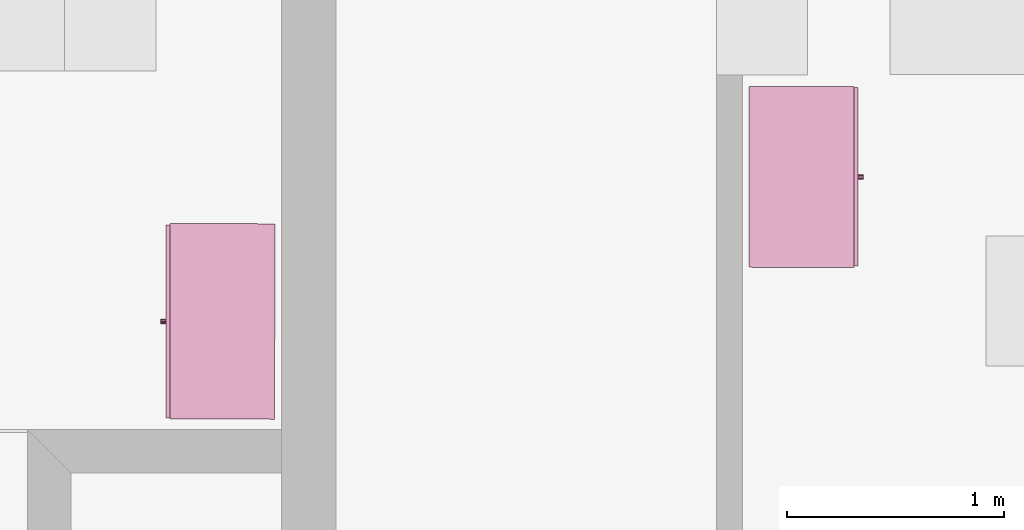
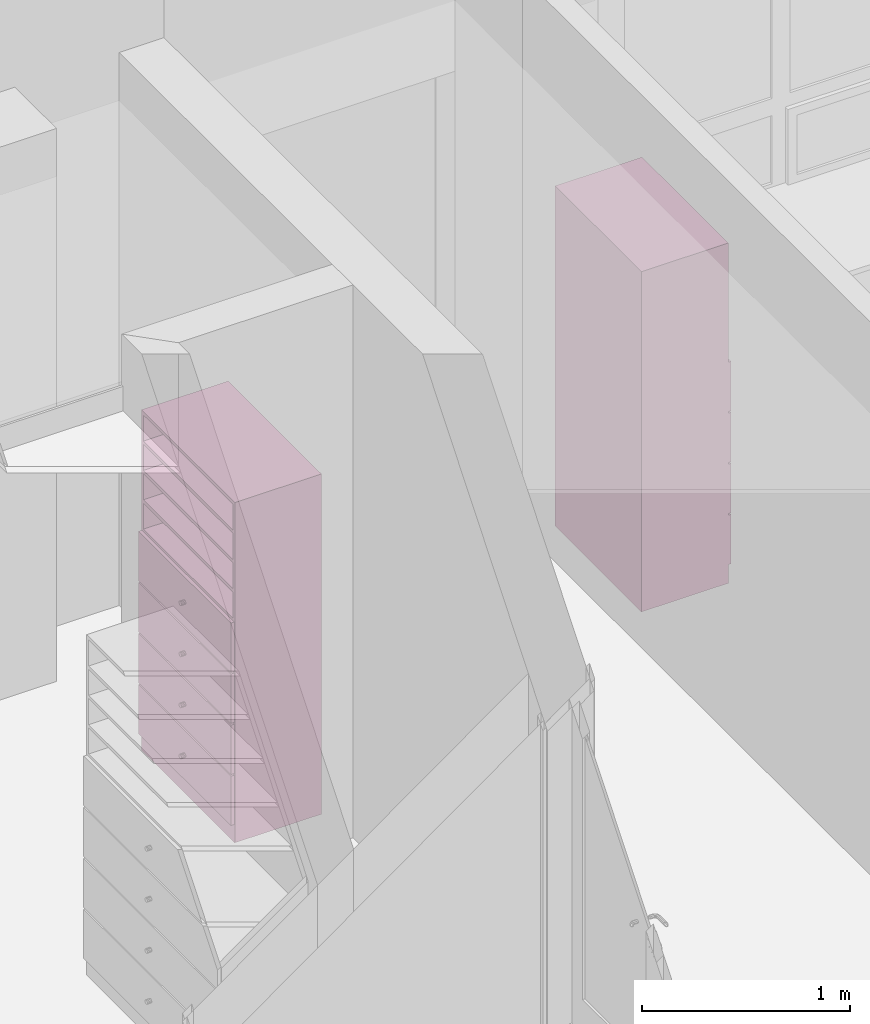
# One storey, part 132 of 194: 2 furnishings.
"""IFC2X3 building model written with IfcOpenShell, lengths in millimetres."""

import ifcopenshell
import ifcopenshell.guid

model = None  # the IFC model being written
_history = None  # IfcOwnerHistory: only IFC2X3 demands one
_inside = {}  # id of a spatial element -> (the spatial element, [elements in it])
_under = {}  # id of a project, library or spatial element -> (it, [spatial elements below it])
_declared = {}  # id of a project -> (the project, [libraries it declares])
_typed = {}  # id of a type object -> (the type object, [elements of that type])
_made_of = {}  # id of a material, layer set ... -> (it, [elements and type objects made of it])


def new_model(schema):
    """Start an empty IFC model of exactly this schema.

    Asked for "IFC4X3", IfcOpenShell would pick the latest addendum, in which some entities
    have other attributes; the version numbers below select the first issue.
    IFC2X3 requires an IfcOwnerHistory on every rooted entity: one is made here for all.
    """
    global model, _history
    if schema == "IFC4X3":
        model = ifcopenshell.file(schema_version=(4, 3, 0, 0))
    else:
        model = ifcopenshell.file(schema=schema)
    _inside.clear()
    _under.clear()
    _declared.clear()
    _typed.clear()
    _made_of.clear()
    _history = None
    if model.schema == "IFC2X3":
        org = make("IfcOrganization", Name="unknown")
        user = make(
            "IfcPersonAndOrganization",
            ThePerson=make("IfcPerson", FamilyName="unknown"),
            TheOrganization=org,
        )
        app = make(
            "IfcApplication",
            ApplicationDeveloper=org,
            Version="unknown",
            ApplicationFullName="unknown",
            ApplicationIdentifier="unknown",
        )
        _history = make(
            "IfcOwnerHistory",
            OwningUser=user,
            OwningApplication=app,
            ChangeAction="ADDED",
            CreationDate=0,
        )
    return model


def make(cls, **values):
    """One entity of the class cls with the attributes given. An attribute that is None is left unset."""
    return model.create_entity(
        cls, **{name: value for name, value in values.items() if value is not None}
    )


def entity(cls, *values):
    """Any entity or typed value of the class cls, its attributes in the order of the schema. None: left unset."""
    e = model.create_entity(cls)
    for i, value in enumerate(values):
        if value is not None:
            e[i] = value
    return e


def rooted(cls, **values):
    """An entity with a GlobalId (a new one), such as an element, a storey or a relation."""
    return make(cls, GlobalId=ifcopenshell.guid.new(), OwnerHistory=_history, **values)


def si_unit(unit_type, name, prefix=None):
    """IfcSIUnit, for example si_unit("LENGTHUNIT", "METRE", prefix="MILLI")."""
    return make("IfcSIUnit", UnitType=unit_type, Prefix=prefix, Name=name)


def converted_unit(unit_type, name, factor, base, dimensions=None, offset=None):
    """IfcConversionBasedUnit, such as the inch: factor (a typed value) times the base unit."""
    return make(
        "IfcConversionBasedUnit"
        if offset is None
        else "IfcConversionBasedUnitWithOffset",
        ConversionOffset=offset,
        Dimensions=None
        if dimensions is None
        else entity("IfcDimensionalExponents", *dimensions),
        UnitType=unit_type,
        Name=name,
        ConversionFactor=make(
            "IfcMeasureWithUnit", ValueComponent=factor, UnitComponent=base
        ),
    )


def derived_unit(unit_type, elements):
    """IfcDerivedUnit: a product of units, each with its exponent."""
    return make(
        "IfcDerivedUnit",
        Elements=[
            make("IfcDerivedUnitElement", Unit=unit, Exponent=power)
            for unit, power in elements
        ],
        UnitType=unit_type,
    )


def money_unit(currency):
    """IfcMonetaryUnit."""
    return make("IfcMonetaryUnit", Currency=currency)


def assignment(units):
    """IfcUnitAssignment: the units of a project."""
    return None if units is None else make("IfcUnitAssignment", Units=units)


def point(xyz):
    """IfcCartesianPoint."""
    return None if xyz is None else make("IfcCartesianPoint", Coordinates=xyz)


def direction(xyz):
    """IfcDirection."""
    return None if xyz is None else make("IfcDirection", DirectionRatios=xyz)


def frame(location, z_axis=None, x_axis=None):
    """IfcAxis2Placement3D, a coordinate frame: its origin and axes. An axis left out is left unset."""
    return make(
        "IfcAxis2Placement3D",
        Location=point(location),
        Axis=direction(z_axis),
        RefDirection=direction(x_axis),
    )


def origin_with_axes():
    """The frame at (0, 0, 0) with the z axis (0, 0, 1) and the x axis (1, 0, 0) written out."""
    return frame((0.0, 0.0, 0.0), z_axis=(0.0, 0.0, 1.0), x_axis=(1.0, 0.0, 0.0))


def place(relative_to, where):
    """IfcLocalPlacement: puts the frame where relative to a parent placement (None: the world)."""
    return make(
        "IfcLocalPlacement", PlacementRelTo=relative_to, RelativePlacement=where
    )


def context(
    kind, dimensions, precision=None, world=None, true_north=None, identifier=None
):
    """IfcGeometricRepresentationContext, for example the 3D "Model" context."""
    return make(
        "IfcGeometricRepresentationContext",
        ContextIdentifier=identifier,
        ContextType=kind,
        CoordinateSpaceDimension=dimensions,
        Precision=precision,
        WorldCoordinateSystem=world,
        TrueNorth=true_north,
    )


def subcontext(parent, identifier, kind, view, scale=None):
    """IfcGeometricRepresentationSubContext, for example "Body" below "Model"."""
    return make(
        "IfcGeometricRepresentationSubContext",
        ContextIdentifier=identifier,
        ContextType=kind,
        ParentContext=parent,
        TargetScale=scale,
        TargetView=view,
    )


def project(units=None, contexts=None):
    """IfcProject with its units and contexts."""
    return rooted(
        "IfcProject",
        Name="project",
        RepresentationContexts=contexts,
        UnitsInContext=assignment(units),
    )


def spatial(cls, under=None, at=None, **own):
    """A site, building, storey or space (cls), placed at a placement, below another one or the project."""
    s = rooted(cls, ObjectPlacement=at, **own)
    if under is not None:
        _under.setdefault(under.id(), (under, []))[1].append(s)
    return s


def faces_of(points, faces, orient=None, outer=None):
    """IfcFace entities. A face is a list of loops; a loop is a list of indices into points, from 0.

    orient and outer hold one flag for each loop. By default every Orientation is true, the
    first loop of a face is its IfcFaceOuterBound and the others are IfcFaceBound.
    """
    made = []
    for i, loops in enumerate(faces):
        bounds = []
        for j, loop in enumerate(loops):
            is_outer = j == 0 if outer is None else outer[i][j]
            bounds.append(
                make(
                    "IfcFaceOuterBound" if is_outer else "IfcFaceBound",
                    Bound=make("IfcPolyLoop", Polygon=[points[k] for k in loop]),
                    Orientation=True if orient is None else orient[i][j],
                )
            )
        made.append(make("IfcFace", Bounds=bounds))
    return made


def faceted_brep(points, faces, orient=None, outer=None, voids=None):
    """IfcFacetedBrep: a solid bounded by flat faces; with voids (closed shells), ...WithVoids."""
    shared = [point(p) for p in points]
    hull = make("IfcClosedShell", CfsFaces=faces_of(shared, faces, orient, outer))
    if voids is None:
        return make("IfcFacetedBrep", Outer=hull)
    return make(
        "IfcFacetedBrepWithVoids",
        Outer=hull,
        Voids=[
            make(cls, CfsFaces=faces_of(shared, fs, o, b)) for cls, fs, o, b in voids
        ],
    )


def shape(context_of_items, identifier, shape_type, items):
    """IfcShapeRepresentation: the items that make up one representation, for example the "Body"."""
    return make(
        "IfcShapeRepresentation",
        ContextOfItems=context_of_items,
        RepresentationIdentifier=identifier,
        RepresentationType=shape_type,
        Items=items,
    )


def source(mapping_origin, context_of_items, identifier, shape_type, items):
    """IfcRepresentationMap: a shape defined once, which mapped items show again and again."""
    return make(
        "IfcRepresentationMap",
        MappingOrigin=mapping_origin,
        MappedRepresentation=shape(context_of_items, identifier, shape_type, items),
    )


def transform(
    local_origin,
    x_axis=None,
    y_axis=None,
    z_axis=None,
    scale=None,
    scale2=None,
    scale3=None,
    uniform=True,
):
    """IfcCartesianTransformationOperator3D, or its non-uniform kind. x_axis, y_axis, z_axis: its Axis1, 2, 3."""
    if uniform:
        return make(
            "IfcCartesianTransformationOperator3D",
            Axis1=direction(x_axis),
            Axis2=direction(y_axis),
            LocalOrigin=point(local_origin),
            Scale=scale,
            Axis3=direction(z_axis),
        )
    return make(
        "IfcCartesianTransformationOperator3DnonUniform",
        Axis1=direction(x_axis),
        Axis2=direction(y_axis),
        LocalOrigin=point(local_origin),
        Scale=scale,
        Axis3=direction(z_axis),
        Scale2=scale2,
        Scale3=scale3,
    )


def mapped(mapping_source, mapping_target):
    """IfcMappedItem: shows the shape of a source again, moved by a transform."""
    return make(
        "IfcMappedItem", MappingSource=mapping_source, MappingTarget=mapping_target
    )


def made_of(thing, what):
    """Note that an element or type object is made of a material, layer set ...; save() writes the relation."""
    if what is not None:
        _made_of.setdefault(what.id(), (what, []))[1].append(thing)
    return thing


def type_object(cls, material=None, **own):
    """A type object (cls), such as IfcWallType, which elements share."""
    return made_of(rooted(cls, **own), material)


def element(
    cls,
    number,
    at=None,
    inside=None,
    cuts=None,
    type_object=None,
    material=None,
    context=None,
    identifier="Body",
    shape_type=None,
    held_by="IfcProductDefinitionShape",
    body=None,
    shapes=None,
    **own,
):
    """One element of the class cls, such as IfcWall. Its Tag is "e" and its number.

    at: its placement. inside: the storey or other place that contains it. cuts: it is an
    opening in that element (IfcRelVoidsElement). A single representation is given by context,
    identifier, shape_type and body (its items); several are given by shapes. held_by: the class
    of the entity that holds the representations. save() writes the other relations.
    """
    e = rooted(cls, Tag="e%d" % number, ObjectPlacement=at, **own)
    if body is not None:
        shapes = [shape(context, identifier, shape_type, body)]
    if shapes is not None:
        e.Representation = make(held_by, Representations=shapes)
    if inside is not None:
        _inside.setdefault(inside.id(), (inside, []))[1].append(e)
    if cuts is not None:
        rooted(
            "IfcRelVoidsElement", RelatingBuildingElement=cuts, RelatedOpeningElement=e
        )
    if type_object is not None:
        _typed.setdefault(type_object.id(), (type_object, []))[1].append(e)
    return made_of(e, material)


def aggregate(whole, parts):
    """IfcRelAggregates: a whole, such as a stair, and the parts it consists of."""
    return rooted("IfcRelAggregates", RelatingObject=whole, RelatedObjects=parts)


def save(model, path):
    """Write the relations noted so far, then the file.

    IfcRelAggregates (storeys below a building ...), IfcRelContainedInSpatialStructure (elements
    in a storey), IfcRelDefinesByType, IfcRelAssociatesMaterial and IfcRelDeclares: one each for
    every whole, place, type object, material and project.
    """
    for whole, parts in _under.values():
        aggregate(whole, parts)
    for where, things in _inside.values():
        rooted(
            "IfcRelContainedInSpatialStructure",
            RelatedElements=things,
            RelatingStructure=where,
        )
    for kind, things in _typed.values():
        rooted("IfcRelDefinesByType", RelatedObjects=things, RelatingType=kind)
    for what, things in _made_of.values():
        rooted("IfcRelAssociatesMaterial", RelatedObjects=things, RelatingMaterial=what)
    for by, libraries in _declared.values():
        rooted("IfcRelDeclares", RelatingContext=by, RelatedDefinitions=libraries)
    model.write(path)


model = new_model("IFC2X3")

# Units and contexts
model_context = context("Model", 3, precision=1e-05, world=origin_with_axes(), true_north=direction((0.0, 1.0)))
body_context = subcontext(model_context, "Body", "Model", "MODEL_VIEW")
ifc_project = project(units=[si_unit("LENGTHUNIT", "METRE", prefix="MILLI"), si_unit("AREAUNIT", "SQUARE_METRE"), si_unit("VOLUMEUNIT", "CUBIC_METRE"), converted_unit("PLANEANGLEUNIT", "DEGREE", entity("IfcPlaneAngleMeasure", 0.0174532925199), si_unit("PLANEANGLEUNIT", "RADIAN"), dimensions=[0, 0, 0, 0, 0, 0, 0]), si_unit("SOLIDANGLEUNIT", "STERADIAN"), money_unit("EUR"), converted_unit("TIMEUNIT", "Year", entity("IfcTimeMeasure", 31556926.0), si_unit("TIMEUNIT", "SECOND"), dimensions=[0, 0, 1, 0, 0, 0, 0]), si_unit("MASSUNIT", "GRAM", prefix="KILO"), si_unit("THERMODYNAMICTEMPERATUREUNIT", "DEGREE_CELSIUS"), si_unit("LUMINOUSINTENSITYUNIT", "LUMEN"), si_unit("ENERGYUNIT", "JOULE", prefix="MEGA"), derived_unit("THERMALCONDUCTANCEUNIT", [(si_unit("POWERUNIT", "WATT"), 1), (si_unit("LENGTHUNIT", "METRE"), -1), (si_unit("THERMODYNAMICTEMPERATUREUNIT", "KELVIN"), -1)]), derived_unit("SPECIFICHEATCAPACITYUNIT", [(si_unit("ENERGYUNIT", "JOULE"), 1), (si_unit("MASSUNIT", "GRAM", prefix="KILO"), -1), (si_unit("THERMODYNAMICTEMPERATUREUNIT", "KELVIN"), -1)]), derived_unit("MASSDENSITYUNIT", [(si_unit("MASSUNIT", "GRAM", prefix="KILO"), 1), (si_unit("VOLUMEUNIT", "CUBIC_METRE"), -1)])], contexts=[model_context])

# Site, building, storey
site_placement = place(None, origin_with_axes())
site = spatial("IfcSite", under=ifc_project, at=site_placement, Name="Site", CompositionType="ELEMENT")
building_placement = place(site_placement, origin_with_axes())
building = spatial("IfcBuilding", under=site, at=building_placement, Name="Building", CompositionType="ELEMENT")
storey_placement = place(building_placement, frame((0.0, 0.0, 3000.0), z_axis=(0.0, 0.0, 1.0), x_axis=(1.0, 0.0, 0.0)))
storey = spatial("IfcBuildingStorey", under=building, at=storey_placement, Name="2 KORRUS", CompositionType="ELEMENT", Elevation=3000.0)

# Furnishings
furnishing_element_type_1 = type_object("IfcFurnishingElementType", Name="Model Element 61")
shared_shape_1 = source(origin_with_axes(), body_context, "Body", "Brep", [
    faceted_brep([(831.932587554, 19.0, 0.0), (0.0, 19.0, 0.0), (0.0, 501.89564716, 0.0), (831.932587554, 501.89564716, 0.0), (831.932587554, 19.0, 100.0), (0.0, 19.0, 100.0), (0.0, 501.89564716, 100.0), (831.932587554, 501.89564716, 100.0)], [[[0, 1, 2, 3]], [[1, 0, 4, 5]], [[2, 1, 5, 6]], [[3, 2, 6, 7]], [[0, 3, 7, 4]], [[5, 4, 7, 6]]]),
    faceted_brep([(19.0, 501.89564716, 119.0), (19.0, 482.89564716, 119.0), (19.0, 482.89564716, 1981.0), (19.0, 501.89564716, 1981.0), (812.932587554, 501.89564716, 119.0), (812.932587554, 482.89564716, 119.0), (812.932587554, 482.89564716, 1981.0), (812.932587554, 501.89564716, 1981.0)], [[[0, 1, 2, 3]], [[0, 4, 5, 1]], [[1, 5, 6, 2]], [[3, 2, 6, 7]], [[4, 0, 3, 7]], [[5, 4, 7, 6]]]),
    faceted_brep([(831.932587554, 19.0, 100.0), (812.932587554, 19.0, 100.0), (812.932587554, 501.89564716, 100.0), (831.932587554, 501.89564716, 100.0), (831.932587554, 19.0, 2000.0), (812.932587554, 19.0, 2000.0), (812.932587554, 501.89564716, 2000.0), (831.932587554, 501.89564716, 2000.0)], [[[0, 1, 2, 3]], [[1, 0, 4, 5]], [[2, 1, 5, 6]], [[3, 2, 6, 7]], [[0, 3, 7, 4]], [[5, 4, 7, 6]]]),
    faceted_brep([(19.0, 19.0, 100.0), (0.0, 19.0, 100.0), (0.0, 501.89564716, 100.0), (19.0, 501.89564716, 100.0), (19.0, 19.0, 2000.0), (0.0, 19.0, 2000.0), (0.0, 501.89564716, 2000.0), (19.0, 501.89564716, 2000.0)], [[[0, 1, 2, 3]], [[1, 0, 4, 5]], [[2, 1, 5, 6]], [[3, 2, 6, 7]], [[0, 3, 7, 4]], [[5, 4, 7, 6]]]),
    faceted_brep([(812.932587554, 19.0, 100.0), (19.0, 19.0, 100.0), (19.0, 501.89564716, 100.0), (812.932587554, 501.89564716, 100.0), (812.932587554, 19.0, 119.0), (19.0, 19.0, 119.0), (19.0, 501.89564716, 119.0), (812.932587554, 501.89564716, 119.0)], [[[0, 1, 2, 3]], [[1, 0, 4, 5]], [[2, 1, 5, 6]], [[3, 2, 6, 7]], [[0, 3, 7, 4]], [[5, 4, 7, 6]]]),
    faceted_brep([(812.932587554, 19.0, 1981.0), (19.0, 19.0, 1981.0), (19.0, 501.89564716, 1981.0), (812.932587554, 501.89564716, 1981.0), (812.932587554, 19.0, 2000.0), (19.0, 19.0, 2000.0), (19.0, 501.89564716, 2000.0), (812.932587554, 501.89564716, 2000.0)], [[[0, 1, 2, 3]], [[1, 0, 4, 5]], [[2, 1, 5, 6]], [[3, 2, 6, 7]], [[0, 3, 7, 4]], [[5, 4, 7, 6]]]),
    faceted_brep([(5.0, 19.0, 105.0), (826.932587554, 19.0, 105.0), (826.932587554, 0.0, 105.0), (5.0, 0.0, 105.0), (5.0, 19.0, 395.0), (826.932587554, 19.0, 395.0), (826.932587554, 0.0, 395.0), (5.0, 0.0, 395.0)], [[[0, 1, 2, 3]], [[0, 4, 5, 1]], [[1, 5, 6, 2]], [[3, 2, 6, 7]], [[4, 0, 3, 7]], [[5, 4, 7, 6]]]),
    faceted_brep([(426.358598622, 0.0, 244.0), (421.966293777, 0.0, 239.607695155), (415.966293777, 0.0, 238.0), (409.966293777, 0.0, 239.607695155), (405.573988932, 0.0, 244.0), (403.966293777, 0.0, 250.0), (405.573988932, 0.0, 256.0), (409.966293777, 0.0, 260.392304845), (415.966293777, 0.0, 262.0), (421.966293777, 0.0, 260.392304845), (426.358598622, 0.0, 256.0), (427.966293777, 0.0, 250.0), (426.358598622, -25.0, 244.0), (421.966293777, -25.0, 239.607695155), (415.966293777, -25.0, 238.0), (409.966293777, -25.0, 239.607695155), (405.573988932, -25.0, 244.0), (403.966293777, -25.0, 250.0), (405.573988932, -25.0, 256.0), (409.966293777, -25.0, 260.392304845), (415.966293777, -25.0, 262.0), (421.966293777, -25.0, 260.392304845), (426.358598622, -25.0, 256.0), (427.966293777, -25.0, 250.0)], [[[0, 1, 2, 3, 4, 5, 6, 7, 8, 9, 10, 11]], [[1, 0, 12, 13]], [[2, 1, 13, 14]], [[3, 2, 14, 15]], [[4, 3, 15, 16]], [[5, 4, 16, 17]], [[6, 5, 17, 18]], [[7, 6, 18, 19]], [[8, 7, 19, 20]], [[9, 8, 20, 21]], [[10, 9, 21, 22]], [[11, 10, 22, 23]], [[0, 11, 23, 12]], [[12, 23, 22, 21, 20, 19, 18, 17, 16, 15, 14, 13]]]),
    faceted_brep([(5.0, 19.0, 405.0), (826.932587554, 19.0, 405.0), (826.932587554, 0.0, 405.0), (5.0, 0.0, 405.0), (5.0, 19.0, 695.0), (826.932587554, 19.0, 695.0), (826.932587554, 0.0, 695.0), (5.0, 0.0, 695.0)], [[[0, 1, 2, 3]], [[0, 4, 5, 1]], [[1, 5, 6, 2]], [[3, 2, 6, 7]], [[4, 0, 3, 7]], [[5, 4, 7, 6]]]),
    faceted_brep([(426.358598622, 0.0, 544.0), (421.966293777, 0.0, 539.607695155), (415.966293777, 0.0, 538.0), (409.966293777, 0.0, 539.607695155), (405.573988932, 0.0, 544.0), (403.966293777, 0.0, 550.0), (405.573988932, 0.0, 556.0), (409.966293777, 0.0, 560.392304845), (415.966293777, 0.0, 562.0), (421.966293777, 0.0, 560.392304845), (426.358598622, 0.0, 556.0), (427.966293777, 0.0, 550.0), (426.358598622, -25.0, 544.0), (421.966293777, -25.0, 539.607695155), (415.966293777, -25.0, 538.0), (409.966293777, -25.0, 539.607695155), (405.573988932, -25.0, 544.0), (403.966293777, -25.0, 550.0), (405.573988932, -25.0, 556.0), (409.966293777, -25.0, 560.392304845), (415.966293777, -25.0, 562.0), (421.966293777, -25.0, 560.392304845), (426.358598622, -25.0, 556.0), (427.966293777, -25.0, 550.0)], [[[0, 1, 2, 3, 4, 5, 6, 7, 8, 9, 10, 11]], [[1, 0, 12, 13]], [[2, 1, 13, 14]], [[3, 2, 14, 15]], [[4, 3, 15, 16]], [[5, 4, 16, 17]], [[6, 5, 17, 18]], [[7, 6, 18, 19]], [[8, 7, 19, 20]], [[9, 8, 20, 21]], [[10, 9, 21, 22]], [[11, 10, 22, 23]], [[0, 11, 23, 12]], [[12, 23, 22, 21, 20, 19, 18, 17, 16, 15, 14, 13]]]),
    faceted_brep([(5.0, 19.0, 705.0), (826.932587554, 19.0, 705.0), (826.932587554, 0.0, 705.0), (5.0, 0.0, 705.0), (5.0, 19.0, 995.0), (826.932587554, 19.0, 995.0), (826.932587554, 0.0, 995.0), (5.0, 0.0, 995.0)], [[[0, 1, 2, 3]], [[0, 4, 5, 1]], [[1, 5, 6, 2]], [[3, 2, 6, 7]], [[4, 0, 3, 7]], [[5, 4, 7, 6]]]),
    faceted_brep([(426.358598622, 0.0, 844.0), (421.966293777, 0.0, 839.607695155), (415.966293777, 0.0, 838.0), (409.966293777, 0.0, 839.607695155), (405.573988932, 0.0, 844.0), (403.966293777, 0.0, 850.0), (405.573988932, 0.0, 856.0), (409.966293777, 0.0, 860.392304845), (415.966293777, 0.0, 862.0), (421.966293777, 0.0, 860.392304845), (426.358598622, 0.0, 856.0), (427.966293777, 0.0, 850.0), (426.358598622, -25.0, 844.0), (421.966293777, -25.0, 839.607695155), (415.966293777, -25.0, 838.0), (409.966293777, -25.0, 839.607695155), (405.573988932, -25.0, 844.0), (403.966293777, -25.0, 850.0), (405.573988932, -25.0, 856.0), (409.966293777, -25.0, 860.392304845), (415.966293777, -25.0, 862.0), (421.966293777, -25.0, 860.392304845), (426.358598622, -25.0, 856.0), (427.966293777, -25.0, 850.0)], [[[0, 1, 2, 3, 4, 5, 6, 7, 8, 9, 10, 11]], [[1, 0, 12, 13]], [[2, 1, 13, 14]], [[3, 2, 14, 15]], [[4, 3, 15, 16]], [[5, 4, 16, 17]], [[6, 5, 17, 18]], [[7, 6, 18, 19]], [[8, 7, 19, 20]], [[9, 8, 20, 21]], [[10, 9, 21, 22]], [[11, 10, 22, 23]], [[0, 11, 23, 12]], [[12, 23, 22, 21, 20, 19, 18, 17, 16, 15, 14, 13]]]),
    faceted_brep([(5.0, 19.0, 1005.0), (826.932587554, 19.0, 1005.0), (826.932587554, 0.0, 1005.0), (5.0, 0.0, 1005.0), (5.0, 19.0, 1295.0), (826.932587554, 19.0, 1295.0), (826.932587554, 0.0, 1295.0), (5.0, 0.0, 1295.0)], [[[0, 1, 2, 3]], [[0, 4, 5, 1]], [[1, 5, 6, 2]], [[3, 2, 6, 7]], [[4, 0, 3, 7]], [[5, 4, 7, 6]]]),
    faceted_brep([(426.358598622, 0.0, 1144.0), (421.966293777, 0.0, 1139.60769515), (415.966293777, 0.0, 1138.0), (409.966293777, 0.0, 1139.60769515), (405.573988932, 0.0, 1144.0), (403.966293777, 0.0, 1150.0), (405.573988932, 0.0, 1156.0), (409.966293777, 0.0, 1160.39230485), (415.966293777, 0.0, 1162.0), (421.966293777, 0.0, 1160.39230485), (426.358598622, 0.0, 1156.0), (427.966293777, 0.0, 1150.0), (426.358598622, -25.0, 1144.0), (421.966293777, -25.0, 1139.60769515), (415.966293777, -25.0, 1138.0), (409.966293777, -25.0, 1139.60769515), (405.573988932, -25.0, 1144.0), (403.966293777, -25.0, 1150.0), (405.573988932, -25.0, 1156.0), (409.966293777, -25.0, 1160.39230485), (415.966293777, -25.0, 1162.0), (421.966293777, -25.0, 1160.39230485), (426.358598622, -25.0, 1156.0), (427.966293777, -25.0, 1150.0)], [[[0, 1, 2, 3, 4, 5, 6, 7, 8, 9, 10, 11]], [[1, 0, 12, 13]], [[2, 1, 13, 14]], [[3, 2, 14, 15]], [[4, 3, 15, 16]], [[5, 4, 16, 17]], [[6, 5, 17, 18]], [[7, 6, 18, 19]], [[8, 7, 19, 20]], [[9, 8, 20, 21]], [[10, 9, 21, 22]], [[11, 10, 22, 23]], [[0, 11, 23, 12]], [[12, 23, 22, 21, 20, 19, 18, 17, 16, 15, 14, 13]]]),
    faceted_brep([(19.0, 19.0, 390.5), (812.932587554, 19.0, 390.5), (812.932587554, 19.0, 409.5), (19.0, 19.0, 409.5), (19.0, 482.89564716, 390.5), (812.932587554, 482.89564716, 390.5), (812.932587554, 482.89564716, 409.5), (19.0, 482.89564716, 409.5)], [[[0, 1, 2, 3]], [[0, 4, 5, 1]], [[1, 5, 6, 2]], [[3, 2, 6, 7]], [[4, 0, 3, 7]], [[5, 4, 7, 6]]]),
    faceted_brep([(19.0, 19.0, 690.5), (812.932587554, 19.0, 690.5), (812.932587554, 19.0, 709.5), (19.0, 19.0, 709.5), (19.0, 482.89564716, 690.5), (812.932587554, 482.89564716, 690.5), (812.932587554, 482.89564716, 709.5), (19.0, 482.89564716, 709.5)], [[[0, 1, 2, 3]], [[0, 4, 5, 1]], [[1, 5, 6, 2]], [[3, 2, 6, 7]], [[4, 0, 3, 7]], [[5, 4, 7, 6]]]),
    faceted_brep([(19.0, 19.0, 990.5), (812.932587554, 19.0, 990.5), (812.932587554, 19.0, 1009.5), (19.0, 19.0, 1009.5), (19.0, 482.89564716, 990.5), (812.932587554, 482.89564716, 990.5), (812.932587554, 482.89564716, 1009.5), (19.0, 482.89564716, 1009.5)], [[[0, 1, 2, 3]], [[0, 4, 5, 1]], [[1, 5, 6, 2]], [[3, 2, 6, 7]], [[4, 0, 3, 7]], [[5, 4, 7, 6]]]),
    faceted_brep([(19.0, 19.0, 1290.5), (812.932587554, 19.0, 1290.5), (812.932587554, 19.0, 1309.5), (19.0, 19.0, 1309.5), (19.0, 482.89564716, 1290.5), (812.932587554, 482.89564716, 1290.5), (812.932587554, 482.89564716, 1309.5), (19.0, 482.89564716, 1309.5)], [[[0, 1, 2, 3]], [[0, 4, 5, 1]], [[1, 5, 6, 2]], [[3, 2, 6, 7]], [[4, 0, 3, 7]], [[5, 4, 7, 6]]]),
    faceted_brep([(812.932587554, 19.0, 1463.125), (19.0, 19.0, 1463.125), (19.0, 482.89564716, 1463.125), (812.932587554, 482.89564716, 1463.125), (812.932587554, 19.0, 1482.125), (19.0, 19.0, 1482.125), (19.0, 482.89564716, 1482.125), (812.932587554, 482.89564716, 1482.125)], [[[0, 1, 2, 3]], [[1, 0, 4, 5]], [[2, 1, 5, 6]], [[3, 2, 6, 7]], [[0, 3, 7, 4]], [[5, 4, 7, 6]]]),
    faceted_brep([(812.932587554, 19.0, 1635.75), (19.0, 19.0, 1635.75), (19.0, 482.89564716, 1635.75), (812.932587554, 482.89564716, 1635.75), (812.932587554, 19.0, 1654.75), (19.0, 19.0, 1654.75), (19.0, 482.89564716, 1654.75), (812.932587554, 482.89564716, 1654.75)], [[[0, 1, 2, 3]], [[1, 0, 4, 5]], [[2, 1, 5, 6]], [[3, 2, 6, 7]], [[0, 3, 7, 4]], [[5, 4, 7, 6]]]),
    faceted_brep([(812.932587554, 19.0, 1808.375), (19.0, 19.0, 1808.375), (19.0, 482.89564716, 1808.375), (812.932587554, 482.89564716, 1808.375), (812.932587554, 19.0, 1827.375), (19.0, 19.0, 1827.375), (19.0, 482.89564716, 1827.375), (812.932587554, 482.89564716, 1827.375)], [[[0, 1, 2, 3]], [[1, 0, 4, 5]], [[2, 1, 5, 6]], [[3, 2, 6, 7]], [[0, 3, 7, 4]], [[5, 4, 7, 6]]]),
])
furnishing_1_placement = place(storey_placement, frame((40386.5352125, 45585.7223738, 0.0), z_axis=(0.0, 0.0, 1.0), x_axis=(0.000642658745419, 0.999999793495, 0.0)))
element("IfcFurnishingElement", 1, at=furnishing_1_placement, inside=storey, type_object=furnishing_element_type_1, Name="FU - 001", context=body_context, shape_type="MappedRepresentation", body=[
    mapped(shared_shape_1, transform((0.0, 0.0, 0.0))),
])
furnishing_element_type_2 = type_object("IfcFurnishingElementType", Name="Model Element 8")
shared_shape_2 = source(origin_with_axes(), body_context, "Body", "Brep", [
    faceted_brep([(900.0, 19.0, 0.0), (0.0, 19.0, 0.0), (0.0, 500.697707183, 0.0), (900.0, 500.697707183, 0.0), (900.0, 19.0, 100.0), (0.0, 19.0, 100.0), (0.0, 500.697707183, 100.0), (900.0, 500.697707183, 100.0)], [[[0, 1, 2, 3]], [[1, 0, 4, 5]], [[2, 1, 5, 6]], [[3, 2, 6, 7]], [[0, 3, 7, 4]], [[5, 4, 7, 6]]]),
    faceted_brep([(19.0, 500.697707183, 119.0), (19.0, 481.697707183, 119.0), (19.0, 481.697707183, 1981.0), (19.0, 500.697707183, 1981.0), (881.0, 500.697707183, 119.0), (881.0, 481.697707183, 119.0), (881.0, 481.697707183, 1981.0), (881.0, 500.697707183, 1981.0)], [[[0, 1, 2, 3]], [[0, 4, 5, 1]], [[1, 5, 6, 2]], [[3, 2, 6, 7]], [[4, 0, 3, 7]], [[5, 4, 7, 6]]]),
    faceted_brep([(900.0, 19.0, 100.0), (881.0, 19.0, 100.0), (881.0, 500.697707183, 100.0), (900.0, 500.697707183, 100.0), (900.0, 19.0, 2000.0), (881.0, 19.0, 2000.0), (881.0, 500.697707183, 2000.0), (900.0, 500.697707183, 2000.0)], [[[0, 1, 2, 3]], [[1, 0, 4, 5]], [[2, 1, 5, 6]], [[3, 2, 6, 7]], [[0, 3, 7, 4]], [[5, 4, 7, 6]]]),
    faceted_brep([(19.0, 19.0, 100.0), (0.0, 19.0, 100.0), (0.0, 500.697707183, 100.0), (19.0, 500.697707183, 100.0), (19.0, 19.0, 2000.0), (0.0, 19.0, 2000.0), (0.0, 500.697707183, 2000.0), (19.0, 500.697707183, 2000.0)], [[[0, 1, 2, 3]], [[1, 0, 4, 5]], [[2, 1, 5, 6]], [[3, 2, 6, 7]], [[0, 3, 7, 4]], [[5, 4, 7, 6]]]),
    faceted_brep([(881.0, 19.0, 100.0), (19.0, 19.0, 100.0), (19.0, 500.697707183, 100.0), (881.0, 500.697707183, 100.0), (881.0, 19.0, 119.0), (19.0, 19.0, 119.0), (19.0, 500.697707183, 119.0), (881.0, 500.697707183, 119.0)], [[[0, 1, 2, 3]], [[1, 0, 4, 5]], [[2, 1, 5, 6]], [[3, 2, 6, 7]], [[0, 3, 7, 4]], [[5, 4, 7, 6]]]),
    faceted_brep([(881.0, 19.0, 1981.0), (19.0, 19.0, 1981.0), (19.0, 500.697707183, 1981.0), (881.0, 500.697707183, 1981.0), (881.0, 19.0, 2000.0), (19.0, 19.0, 2000.0), (19.0, 500.697707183, 2000.0), (881.0, 500.697707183, 2000.0)], [[[0, 1, 2, 3]], [[1, 0, 4, 5]], [[2, 1, 5, 6]], [[3, 2, 6, 7]], [[0, 3, 7, 4]], [[5, 4, 7, 6]]]),
    faceted_brep([(5.0, 19.0, 105.0), (895.0, 19.0, 105.0), (895.0, 0.0, 105.0), (5.0, 0.0, 105.0), (5.0, 19.0, 395.0), (895.0, 19.0, 395.0), (895.0, 0.0, 395.0), (5.0, 0.0, 395.0)], [[[0, 1, 2, 3]], [[0, 4, 5, 1]], [[1, 5, 6, 2]], [[3, 2, 6, 7]], [[4, 0, 3, 7]], [[5, 4, 7, 6]]]),
    faceted_brep([(460.392304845, 0.0, 244.0), (456.0, 0.0, 239.607695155), (450.0, 0.0, 238.0), (444.0, 0.0, 239.607695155), (439.607695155, 0.0, 244.0), (438.0, 0.0, 250.0), (439.607695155, 0.0, 256.0), (444.0, 0.0, 260.392304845), (450.0, 0.0, 262.0), (456.0, 0.0, 260.392304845), (460.392304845, 0.0, 256.0), (462.0, 0.0, 250.0), (460.392304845, -25.0, 244.0), (456.0, -25.0, 239.607695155), (450.0, -25.0, 238.0), (444.0, -25.0, 239.607695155), (439.607695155, -25.0, 244.0), (438.0, -25.0, 250.0), (439.607695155, -25.0, 256.0), (444.0, -25.0, 260.392304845), (450.0, -25.0, 262.0), (456.0, -25.0, 260.392304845), (460.392304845, -25.0, 256.0), (462.0, -25.0, 250.0)], [[[0, 1, 2, 3, 4, 5, 6, 7, 8, 9, 10, 11]], [[1, 0, 12, 13]], [[2, 1, 13, 14]], [[3, 2, 14, 15]], [[4, 3, 15, 16]], [[5, 4, 16, 17]], [[6, 5, 17, 18]], [[7, 6, 18, 19]], [[8, 7, 19, 20]], [[9, 8, 20, 21]], [[10, 9, 21, 22]], [[11, 10, 22, 23]], [[0, 11, 23, 12]], [[12, 23, 22, 21, 20, 19, 18, 17, 16, 15, 14, 13]]]),
    faceted_brep([(5.0, 19.0, 405.0), (895.0, 19.0, 405.0), (895.0, 0.0, 405.0), (5.0, 0.0, 405.0), (5.0, 19.0, 695.0), (895.0, 19.0, 695.0), (895.0, 0.0, 695.0), (5.0, 0.0, 695.0)], [[[0, 1, 2, 3]], [[0, 4, 5, 1]], [[1, 5, 6, 2]], [[3, 2, 6, 7]], [[4, 0, 3, 7]], [[5, 4, 7, 6]]]),
    faceted_brep([(460.392304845, 0.0, 544.0), (456.0, 0.0, 539.607695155), (450.0, 0.0, 538.0), (444.0, 0.0, 539.607695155), (439.607695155, 0.0, 544.0), (438.0, 0.0, 550.0), (439.607695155, 0.0, 556.0), (444.0, 0.0, 560.392304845), (450.0, 0.0, 562.0), (456.0, 0.0, 560.392304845), (460.392304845, 0.0, 556.0), (462.0, 0.0, 550.0), (460.392304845, -25.0, 544.0), (456.0, -25.0, 539.607695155), (450.0, -25.0, 538.0), (444.0, -25.0, 539.607695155), (439.607695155, -25.0, 544.0), (438.0, -25.0, 550.0), (439.607695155, -25.0, 556.0), (444.0, -25.0, 560.392304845), (450.0, -25.0, 562.0), (456.0, -25.0, 560.392304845), (460.392304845, -25.0, 556.0), (462.0, -25.0, 550.0)], [[[0, 1, 2, 3, 4, 5, 6, 7, 8, 9, 10, 11]], [[1, 0, 12, 13]], [[2, 1, 13, 14]], [[3, 2, 14, 15]], [[4, 3, 15, 16]], [[5, 4, 16, 17]], [[6, 5, 17, 18]], [[7, 6, 18, 19]], [[8, 7, 19, 20]], [[9, 8, 20, 21]], [[10, 9, 21, 22]], [[11, 10, 22, 23]], [[0, 11, 23, 12]], [[12, 23, 22, 21, 20, 19, 18, 17, 16, 15, 14, 13]]]),
    faceted_brep([(5.0, 19.0, 705.0), (895.0, 19.0, 705.0), (895.0, 0.0, 705.0), (5.0, 0.0, 705.0), (5.0, 19.0, 995.0), (895.0, 19.0, 995.0), (895.0, 0.0, 995.0), (5.0, 0.0, 995.0)], [[[0, 1, 2, 3]], [[0, 4, 5, 1]], [[1, 5, 6, 2]], [[3, 2, 6, 7]], [[4, 0, 3, 7]], [[5, 4, 7, 6]]]),
    faceted_brep([(460.392304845, 0.0, 844.0), (456.0, 0.0, 839.607695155), (450.0, 0.0, 838.0), (444.0, 0.0, 839.607695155), (439.607695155, 0.0, 844.0), (438.0, 0.0, 850.0), (439.607695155, 0.0, 856.0), (444.0, 0.0, 860.392304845), (450.0, 0.0, 862.0), (456.0, 0.0, 860.392304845), (460.392304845, 0.0, 856.0), (462.0, 0.0, 850.0), (460.392304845, -25.0, 844.0), (456.0, -25.0, 839.607695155), (450.0, -25.0, 838.0), (444.0, -25.0, 839.607695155), (439.607695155, -25.0, 844.0), (438.0, -25.0, 850.0), (439.607695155, -25.0, 856.0), (444.0, -25.0, 860.392304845), (450.0, -25.0, 862.0), (456.0, -25.0, 860.392304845), (460.392304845, -25.0, 856.0), (462.0, -25.0, 850.0)], [[[0, 1, 2, 3, 4, 5, 6, 7, 8, 9, 10, 11]], [[1, 0, 12, 13]], [[2, 1, 13, 14]], [[3, 2, 14, 15]], [[4, 3, 15, 16]], [[5, 4, 16, 17]], [[6, 5, 17, 18]], [[7, 6, 18, 19]], [[8, 7, 19, 20]], [[9, 8, 20, 21]], [[10, 9, 21, 22]], [[11, 10, 22, 23]], [[0, 11, 23, 12]], [[12, 23, 22, 21, 20, 19, 18, 17, 16, 15, 14, 13]]]),
    faceted_brep([(5.0, 19.0, 1005.0), (895.0, 19.0, 1005.0), (895.0, 0.0, 1005.0), (5.0, 0.0, 1005.0), (5.0, 19.0, 1295.0), (895.0, 19.0, 1295.0), (895.0, 0.0, 1295.0), (5.0, 0.0, 1295.0)], [[[0, 1, 2, 3]], [[0, 4, 5, 1]], [[1, 5, 6, 2]], [[3, 2, 6, 7]], [[4, 0, 3, 7]], [[5, 4, 7, 6]]]),
    faceted_brep([(460.392304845, 0.0, 1144.0), (456.0, 0.0, 1139.60769515), (450.0, 0.0, 1138.0), (444.0, 0.0, 1139.60769515), (439.607695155, 0.0, 1144.0), (438.0, 0.0, 1150.0), (439.607695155, 0.0, 1156.0), (444.0, 0.0, 1160.39230485), (450.0, 0.0, 1162.0), (456.0, 0.0, 1160.39230485), (460.392304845, 0.0, 1156.0), (462.0, 0.0, 1150.0), (460.392304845, -25.0, 1144.0), (456.0, -25.0, 1139.60769515), (450.0, -25.0, 1138.0), (444.0, -25.0, 1139.60769515), (439.607695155, -25.0, 1144.0), (438.0, -25.0, 1150.0), (439.607695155, -25.0, 1156.0), (444.0, -25.0, 1160.39230485), (450.0, -25.0, 1162.0), (456.0, -25.0, 1160.39230485), (460.392304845, -25.0, 1156.0), (462.0, -25.0, 1150.0)], [[[0, 1, 2, 3, 4, 5, 6, 7, 8, 9, 10, 11]], [[1, 0, 12, 13]], [[2, 1, 13, 14]], [[3, 2, 14, 15]], [[4, 3, 15, 16]], [[5, 4, 16, 17]], [[6, 5, 17, 18]], [[7, 6, 18, 19]], [[8, 7, 19, 20]], [[9, 8, 20, 21]], [[10, 9, 21, 22]], [[11, 10, 22, 23]], [[0, 11, 23, 12]], [[12, 23, 22, 21, 20, 19, 18, 17, 16, 15, 14, 13]]]),
    faceted_brep([(19.0, 19.0, 390.5), (881.0, 19.0, 390.5), (881.0, 19.0, 409.5), (19.0, 19.0, 409.5), (19.0, 481.697707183, 390.5), (881.0, 481.697707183, 390.5), (881.0, 481.697707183, 409.5), (19.0, 481.697707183, 409.5)], [[[0, 1, 2, 3]], [[0, 4, 5, 1]], [[1, 5, 6, 2]], [[3, 2, 6, 7]], [[4, 0, 3, 7]], [[5, 4, 7, 6]]]),
    faceted_brep([(19.0, 19.0, 690.5), (881.0, 19.0, 690.5), (881.0, 19.0, 709.5), (19.0, 19.0, 709.5), (19.0, 481.697707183, 690.5), (881.0, 481.697707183, 690.5), (881.0, 481.697707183, 709.5), (19.0, 481.697707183, 709.5)], [[[0, 1, 2, 3]], [[0, 4, 5, 1]], [[1, 5, 6, 2]], [[3, 2, 6, 7]], [[4, 0, 3, 7]], [[5, 4, 7, 6]]]),
    faceted_brep([(19.0, 19.0, 990.5), (881.0, 19.0, 990.5), (881.0, 19.0, 1009.5), (19.0, 19.0, 1009.5), (19.0, 481.697707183, 990.5), (881.0, 481.697707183, 990.5), (881.0, 481.697707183, 1009.5), (19.0, 481.697707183, 1009.5)], [[[0, 1, 2, 3]], [[0, 4, 5, 1]], [[1, 5, 6, 2]], [[3, 2, 6, 7]], [[4, 0, 3, 7]], [[5, 4, 7, 6]]]),
    faceted_brep([(19.0, 19.0, 1290.5), (881.0, 19.0, 1290.5), (881.0, 19.0, 1309.5), (19.0, 19.0, 1309.5), (19.0, 481.697707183, 1290.5), (881.0, 481.697707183, 1290.5), (881.0, 481.697707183, 1309.5), (19.0, 481.697707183, 1309.5)], [[[0, 1, 2, 3]], [[0, 4, 5, 1]], [[1, 5, 6, 2]], [[3, 2, 6, 7]], [[4, 0, 3, 7]], [[5, 4, 7, 6]]]),
    faceted_brep([(881.0, 19.0, 1463.125), (19.0, 19.0, 1463.125), (19.0, 481.697707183, 1463.125), (881.0, 481.697707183, 1463.125), (881.0, 19.0, 1482.125), (19.0, 19.0, 1482.125), (19.0, 481.697707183, 1482.125), (881.0, 481.697707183, 1482.125)], [[[0, 1, 2, 3]], [[1, 0, 4, 5]], [[2, 1, 5, 6]], [[3, 2, 6, 7]], [[0, 3, 7, 4]], [[5, 4, 7, 6]]]),
    faceted_brep([(881.0, 19.0, 1635.75), (19.0, 19.0, 1635.75), (19.0, 481.697707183, 1635.75), (881.0, 481.697707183, 1635.75), (881.0, 19.0, 1654.75), (19.0, 19.0, 1654.75), (19.0, 481.697707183, 1654.75), (881.0, 481.697707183, 1654.75)], [[[0, 1, 2, 3]], [[1, 0, 4, 5]], [[2, 1, 5, 6]], [[3, 2, 6, 7]], [[0, 3, 7, 4]], [[5, 4, 7, 6]]]),
    faceted_brep([(881.0, 19.0, 1808.375), (19.0, 19.0, 1808.375), (19.0, 481.697707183, 1808.375), (881.0, 481.697707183, 1808.375), (881.0, 19.0, 1827.375), (19.0, 19.0, 1827.375), (19.0, 481.697707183, 1827.375), (881.0, 481.697707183, 1827.375)], [[[0, 1, 2, 3]], [[1, 0, 4, 5]], [[2, 1, 5, 6]], [[3, 2, 6, 7]], [[0, 3, 7, 4]], [[5, 4, 7, 6]]]),
])
furnishing_2_placement = place(storey_placement, frame((37201.3064203, 45786.5726061, 0.0), z_axis=(0.0, 0.0, 1.0), x_axis=(-0.000642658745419, -0.999999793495, 0.0)))
element("IfcFurnishingElement", 2, at=furnishing_2_placement, inside=storey, type_object=furnishing_element_type_2, Name="FU - 001", context=body_context, shape_type="MappedRepresentation", body=[
    mapped(shared_shape_2, transform((0.0, 0.0, 0.0))),
])

save(model, "model.ifc")
